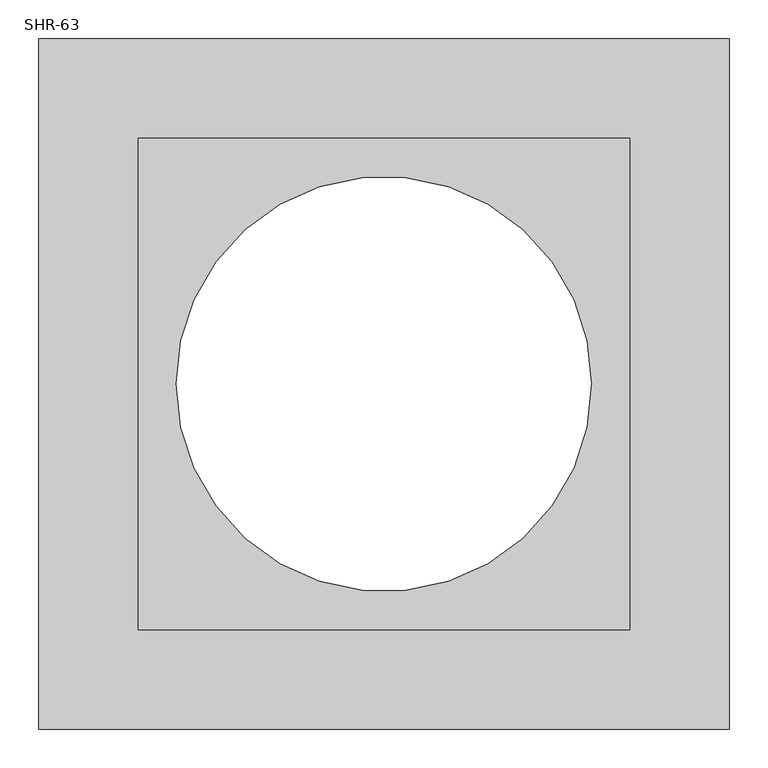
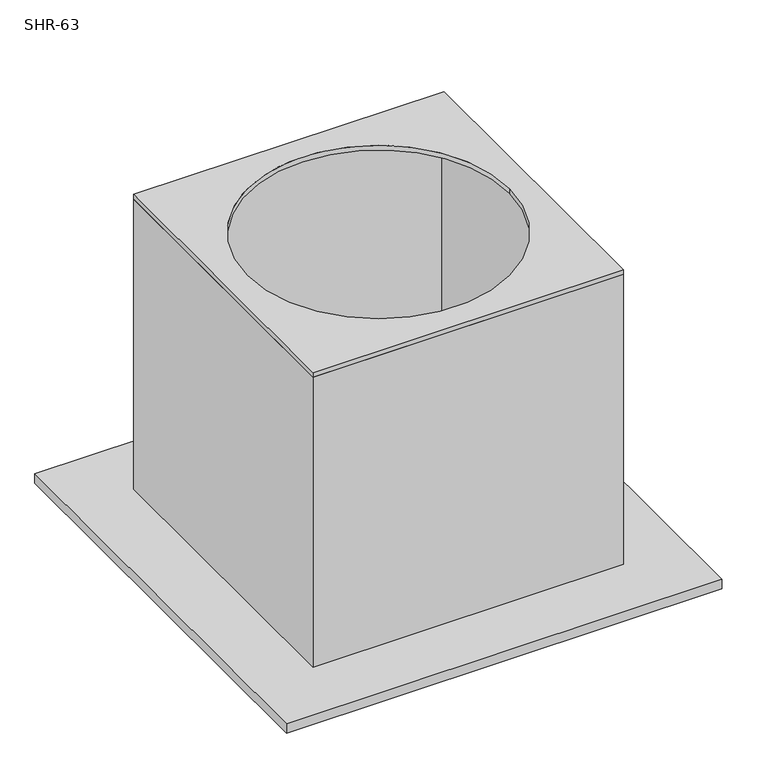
"""IFC4 building model written with IfcOpenShell, lengths in millimetres: damper geometry, СВ_Шумоглушитель_КрышныйПрямоугольный_30-100_SHR : SHR-63."""

from ifc_helpers import new_model, si_unit, point, frame, origin, origin_2d, place, context, project, spatial, polyline, circle_curve, trimmed, segment, composite_curve, outline, extrude, faceted_brep, source, transform, mapped, element, save


def shr_63_88a6ad4f(model_context):
    return source(origin(), model_context, "Body", "SolidModel", [
        extrude(outline(polyline([(317.0, 317.0), (317.0, -317.0), (-317.0, -317.0), (-317.0, 317.0), (317.0, 317.0)]), holes=[composite_curve([segment(trimmed(circle_curve(origin_2d(), 267.5), [point((-267.5, 0.0))], [point((267.5, 0.0))], True, "CARTESIAN"), True, "CONTINUOUS"), segment(trimmed(circle_curve(origin_2d(), 267.5), [point((267.5, 0.0))], [point((-267.5, 0.0))], True, "CARTESIAN"), True, "CONTINUOUS")], self_intersect=False)]), frame((0.0, 0.0, -10.0), z_axis=(0.0, 0.0, 1.0), x_axis=(1.0, 0.0, 0.0)), (0.0, 0.0, 1.0), 10.0),
        faceted_brep([(-445.0, -445.0, -636.0), (445.0, -445.0, -636.0), (445.0, 445.0, -636.0), (-445.0, 445.0, -636.0), (-317.0, 317.0, -636.0), (317.0, 317.0, -636.0), (317.0, -317.0, -636.0), (-317.0, -317.0, -636.0), (-445.0, -445.0, -656.0), (-445.0, 445.0, -656.0), (445.0, 445.0, -656.0), (445.0, -445.0, -656.0), (-307.0, -307.0, -656.0), (307.0, -307.0, -656.0), (307.0, 307.0, -656.0), (-307.0, 307.0, -656.0), (317.0, 317.0, -10.0), (-317.0, 317.0, -10.0), (-317.0, -317.0, -10.0), (317.0, -317.0, -10.0), (-307.0, -307.0, -10.0), (-307.0, 307.0, -10.0), (307.0, 307.0, -10.0), (307.0, -307.0, -10.0)], [[[0, 1, 2, 3], [4, 5, 6, 7]], [[8, 9, 10, 11], [12, 13, 14, 15]], [[1, 0, 8, 11]], [[2, 1, 11, 10]], [[3, 2, 10, 9]], [[0, 3, 9, 8]], [[16, 17, 18, 19], [20, 21, 22, 23]], [[20, 23, 13, 12]], [[23, 22, 14, 13]], [[22, 21, 15, 14]], [[21, 20, 12, 15]], [[17, 16, 5, 4]], [[18, 17, 4, 7]], [[19, 18, 7, 6]], [[16, 19, 6, 5]]]),
    ])


if __name__ == "__main__":
    model = new_model("IFC4")
    model_context = context("Model", 3, world=origin())
    ifc_project = project(units=[si_unit("LENGTHUNIT", "METRE", prefix="MILLI")], contexts=[model_context])
    site = spatial("IfcSite", under=ifc_project)
    building = spatial("IfcBuilding", under=site)
    placement = place(None, origin())
    shr_63_shape = shr_63_88a6ad4f(model_context)
    element("IfcDamper", 1, ObjectType="СВ_Шумоглушитель_КрышныйПрямоугольный_30-100_SHR : SHR-63", at=placement, inside=building, context=model_context, shape_type="MappedRepresentation", body=[
        mapped(shr_63_shape, transform((0.0, 0.0, 0.0), x_axis=(1.0, 0.0, 0.0), y_axis=(0.0, 1.0, 0.0), z_axis=(0.0, 0.0, 1.0))),
    ])
    save(model, "model.ifc")
